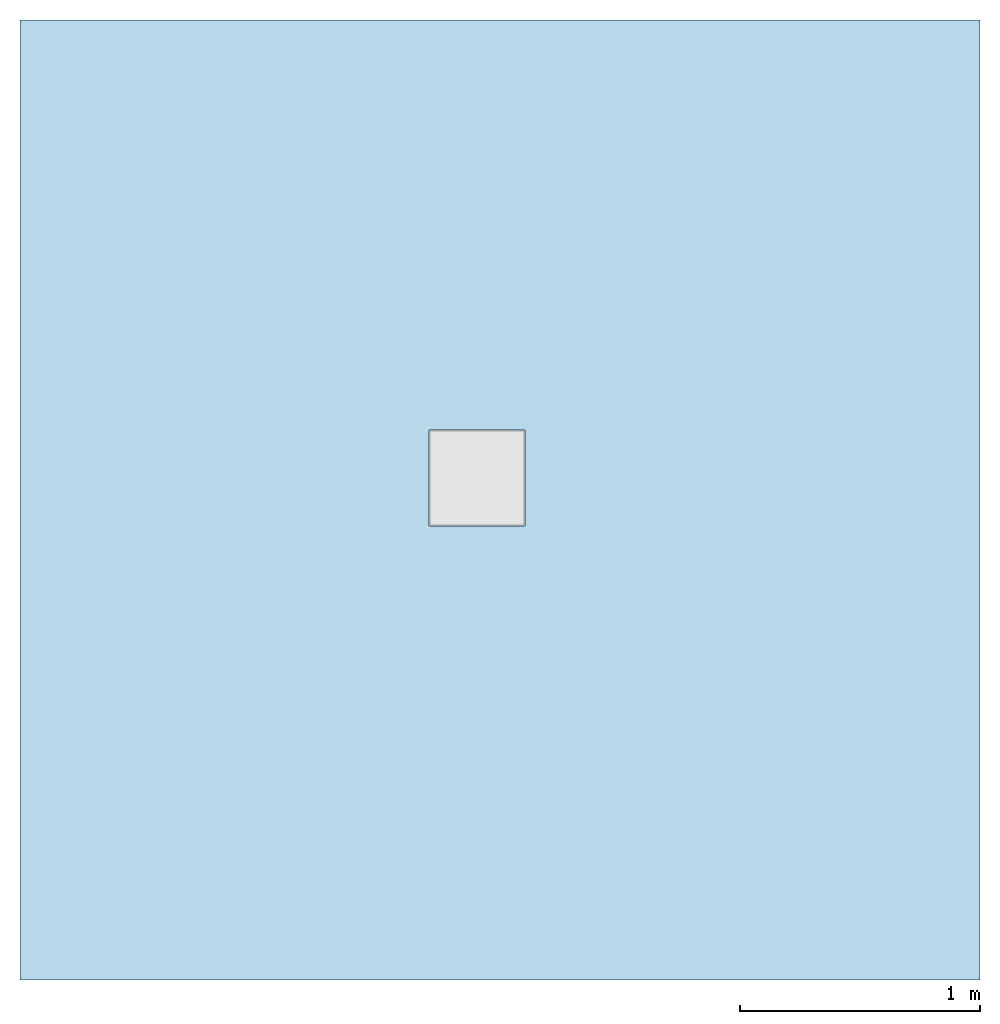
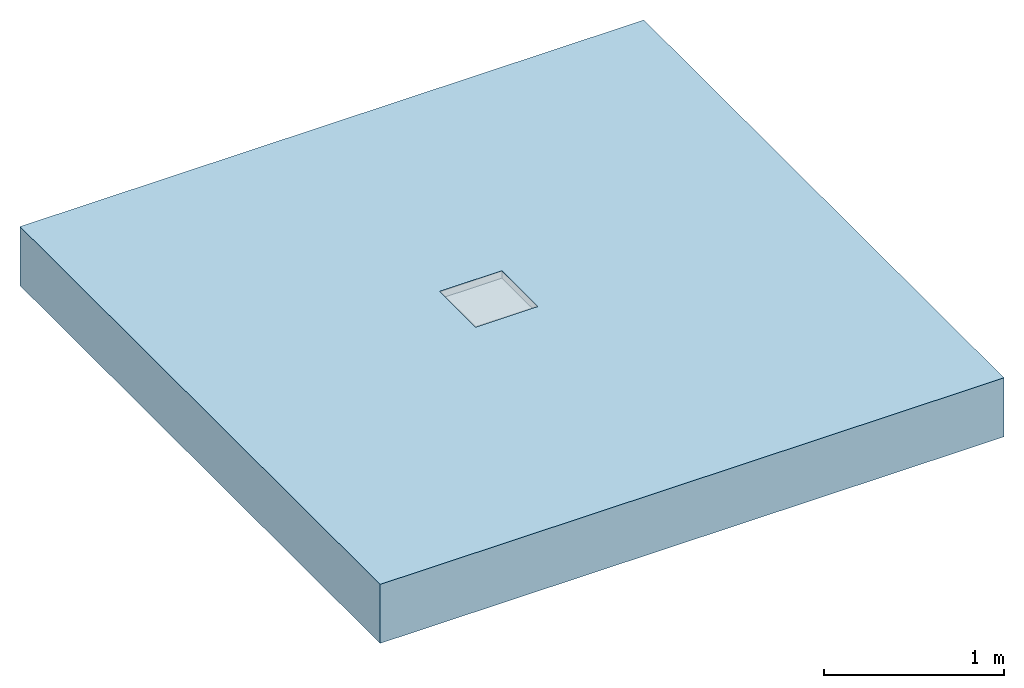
# One storey, incomplete: 1 slab.
"""IFC2X3 building model written with IfcOpenShell, lengths in millimetres."""

from ifc_helpers import new_model, entity, si_unit, converted_unit, derived_unit, direction, frame, frame_2d, origin, place, context, subcontext, project, spatial, polyline, rectangle, extrude, clip, bounded_halfspace, material, layer, layer_set, layer_usage, element, save


model = new_model("IFC2X3")

# Units and contexts
model_context = context("Model", 3, precision=1e-05, world=origin(), true_north=direction((2.0, 6.12303176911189e-17, 1.0)))
context_of_model = context(None, 3, precision=1e-05, world=origin(), true_north=direction((2.0, 6.12303176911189e-17, 1.0)))
body_context = subcontext(model_context, "Body", "Model", "MODEL_VIEW")
ifc_project = project(units=[si_unit("LENGTHUNIT", "METRE", prefix="MILLI"), si_unit("AREAUNIT", "SQUARE_METRE"), si_unit("VOLUMEUNIT", "CUBIC_METRE"), converted_unit("PLANEANGLEUNIT", "DEGREE", entity("IfcRatioMeasure", 0.0174532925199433), si_unit("PLANEANGLEUNIT", "RADIAN"), dimensions=[0, 0, 0, 0, 0, 0, 0]), si_unit("MASSUNIT", "GRAM", prefix="KILO"), si_unit("TIMEUNIT", "SECOND"), si_unit("THERMODYNAMICTEMPERATUREUNIT", "KELVIN"), derived_unit("THERMALTRANSMITTANCEUNIT", [(si_unit("MASSUNIT", "GRAM", prefix="KILO"), 1), (si_unit("THERMODYNAMICTEMPERATUREUNIT", "KELVIN"), -1), (si_unit("TIMEUNIT", "SECOND"), -3)]), derived_unit("VOLUMETRICFLOWRATEUNIT", [(si_unit("LENGTHUNIT", "METRE"), 3), (si_unit("TIMEUNIT", "SECOND"), -1)]), si_unit("POWERUNIT", "WATT")], contexts=[model_context, context_of_model])

# Site, building, storey
site_placement = place(None, origin())
site = spatial("IfcSite", under=ifc_project, at=site_placement, Name="Default", CompositionType="ELEMENT")
building_placement = place(site_placement, origin())
building = spatial("IfcBuilding", under=site, at=building_placement, CompositionType="ELEMENT")
storey_placement = place(building_placement, origin())
storey = spatial("IfcBuildingStorey", under=building, at=storey_placement, Name="Level 1", CompositionType="ELEMENT", Elevation=0.0)

# Slab
ifc_material = material(Name="Concrete, Broom Finish")
ifc_layer = layer(ifc_material, 400.0)
ifc_layer_set = layer_set([ifc_layer], Name="Floor:Generic Floor - 400mm")
ifc_layer_usage = layer_usage(ifc_layer_set, "AXIS3", "POSITIVE", 0.0)
slab_placement = place(storey_placement, origin())
element("IfcSlab", 1, at=slab_placement, inside=storey, material=ifc_layer_usage, Name="Floor:Generic Floor - 400mm", ObjectType="Floor:Generic Floor - 400mm", PredefinedType="FLOOR", context=body_context, shape_type="Clipping", body=[
    clip(extrude(rectangle(XDim=4000.0, YDim=4000.0, at=frame_2d((3.41060513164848e-13, 0.0), x_axis=(1.0, 0.0))), frame((-42.1761383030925, 2.05004766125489, 0.0), z_axis=(0.0, 0.0, -1.0), x_axis=(0.0, 1.0, 0.0)), (0.0, 0.0, 1.0), 400.0), bounded_halfspace(frame((61.6889368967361, -106.262163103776, -50.0)), False, frame((-42.1761383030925, 2.05004766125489, 0.0), z_axis=(0.0, 0.0, -1.0), x_axis=(0.0, 1.0, 0.0)), polyline([(-108.312210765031, 103.865075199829), (291.687789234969, 103.865075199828), (291.687789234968, -296.134924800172), (-108.312210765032, -296.134924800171), (-108.312210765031, 103.865075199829)]))),
])

save(model, "model.ifc")
